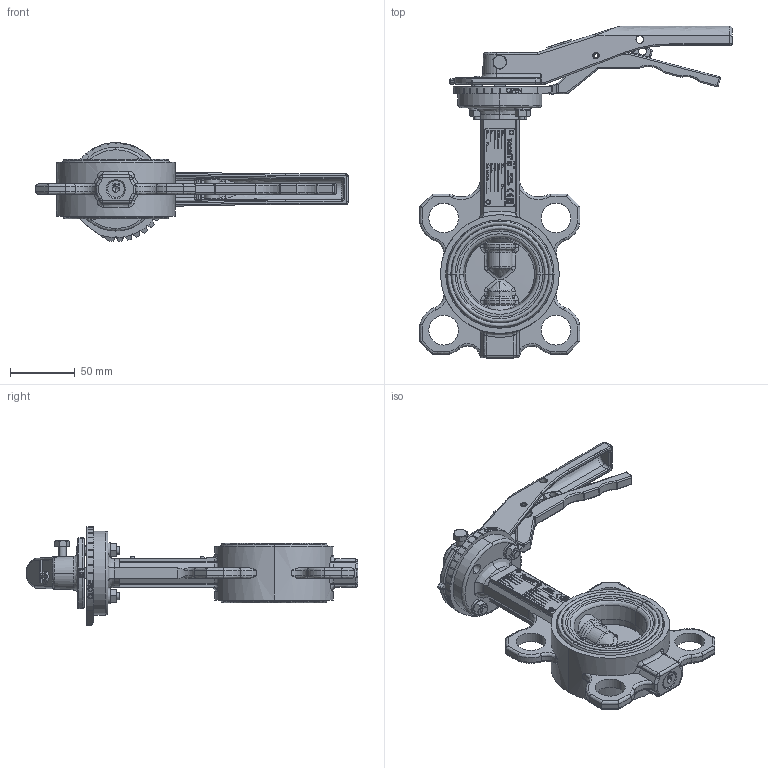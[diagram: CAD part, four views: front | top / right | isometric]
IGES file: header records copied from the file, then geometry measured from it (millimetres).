
Start section: SolidWorks IGES file using NURBS representation for surfaces
Global section: file name: H:\BE BIBLIOTHEQUE 3D\VPN-02 HANDLE (DN40 à 300)\VPN-02 DN50\VPN-02 DN50.IGS; native system: SolidWorks 2011; preprocessor: SolidWorks 2011; author: a.cartier; date: 140716.105219; units: millimetre
Bounding box: 242 x 257.2 x 76.45 mm (x, y, z)
Volume: 413208.8 mm3; surface area: 160357.6 mm2
Topology: 27 solids, 27 shells, 4057 faces, 10189 edges, 6523 vertices
Faces by surface type: bspline 4057
